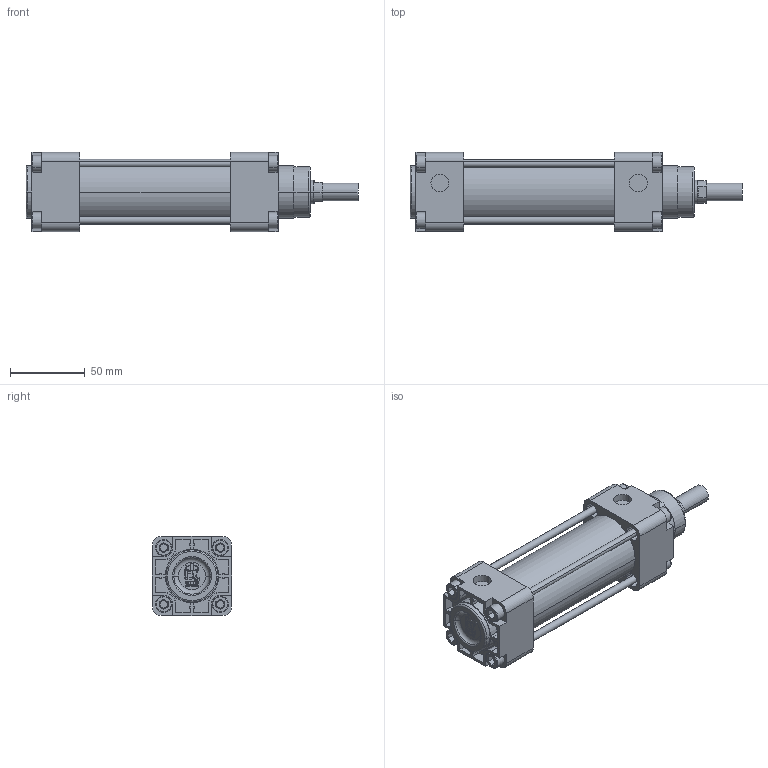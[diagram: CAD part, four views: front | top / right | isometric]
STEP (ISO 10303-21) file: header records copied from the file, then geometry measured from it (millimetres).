
FILE_DESCRIPTION(('CATIA V5 STEP Exchange'),'2;1');
FILE_NAME('D:\stp file for catalog\PNC\40\PNC 40-16-60.stp','2015-10-13T05:30:57+00:00',('none'),('none'),'Version 5-6 Release 2012','CATIA V5 STEP AP203','none');
FILE_SCHEMA(('CONFIG_CONTROL_DESIGN'));
Length unit declared in the file: millimetre
Products named in the file (1): PNC 40-16-60-00
Assembly tree (2 placements, depth 2):
  PNC 40-16-60-00
    #58
    #14775
Bounding box: 222.5 x 53 x 53 mm (x, y, z)
Volume: 281251.9 mm3; surface area: 96240.9 mm2
Topology: 2 solids, 2 shells, 562 faces, 1417 edges, 920 vertices
Faces by surface type: plane 352, cylinder 158, torus 26, cone 18, extrusion 8
Entity records: 15204 total; most frequent: CARTESIAN_POINT 2889, ORIENTED_EDGE 2834, DIRECTION 1905, EDGE_CURVE 1417, VERTEX_POINT 920, VECTOR 877, LINE 869, AXIS2_PLACEMENT_3D 764
